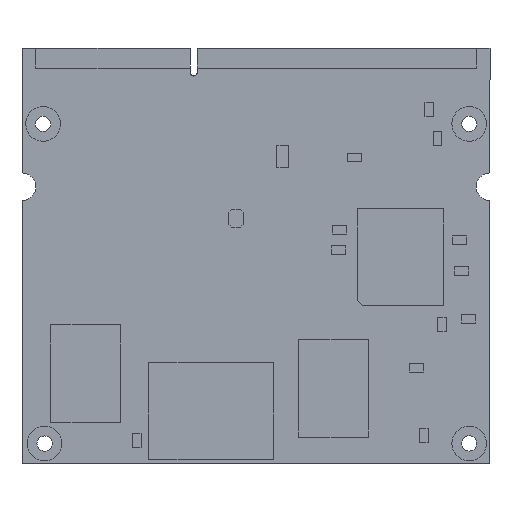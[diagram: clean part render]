
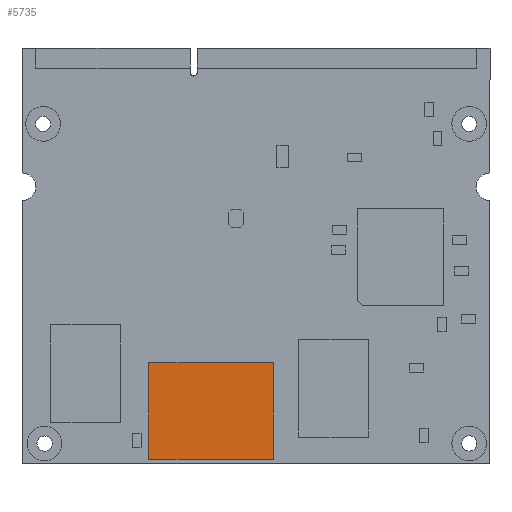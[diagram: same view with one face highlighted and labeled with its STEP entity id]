
A CAD part, front view. The second image highlights one B-rep face of the part: STEP entity #5735.
In plain terms, the highlighted planar face has unit normal (0, -1, 0).
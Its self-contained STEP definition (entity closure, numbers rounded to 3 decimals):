
#1330 = VECTOR ( 'NONE', #11431, 1000. ) ;
#1335 = VECTOR ( 'NONE', #11439, 1000. ) ;
#1336 = VECTOR ( 'NONE', #11445, 1000. ) ;
#1339 = VECTOR ( 'NONE', #11448, 1000. ) ;
#2633 = CARTESIAN_POINT ( 'NONE',  ( -15.476, -1., -29.385 ) ) ;
#2634 = CARTESIAN_POINT ( 'NONE',  ( 2.524, -1., -15.385 ) ) ;
#2635 = CARTESIAN_POINT ( 'NONE',  ( -15.476, -1., -15.385 ) ) ;
#2637 = CARTESIAN_POINT ( 'NONE',  ( 2.524, -1., -29.385 ) ) ;
#3143 = AXIS2_PLACEMENT_3D ( 'NONE', #3673, #3674, #3675 ) ;
#3648 = PLANE ( 'NONE',  #3143 ) ;
#3663 = FACE_OUTER_BOUND ( 'NONE', #13151, .T. ) ;
#3673 = CARTESIAN_POINT ( 'NONE',  ( 2.524, -1., -29.385 ) ) ;
#3674 = DIRECTION ( 'NONE',  ( 0., 1., 0. ) ) ;
#3675 = DIRECTION ( 'NONE',  ( 0., 0., 1. ) ) ;
#5224 = VERTEX_POINT ( 'NONE', #2633 ) ;
#5225 = VERTEX_POINT ( 'NONE', #2634 ) ;
#5226 = VERTEX_POINT ( 'NONE', #2635 ) ;
#5228 = VERTEX_POINT ( 'NONE', #2637 ) ;
#5735 = ADVANCED_FACE ( 'NONE', ( #3663 ), #3648, .F. ) ;
#8472 = EDGE_CURVE ( 'NONE', #5228, #5225, #11412, .T. ) ;
#8475 = EDGE_CURVE ( 'NONE', #5225, #5226, #11430, .T. ) ;
#8477 = EDGE_CURVE ( 'NONE', #5226, #5224, #11433, .T. ) ;
#8478 = EDGE_CURVE ( 'NONE', #5224, #5228, #11446, .T. ) ;
#9768 = ORIENTED_EDGE ( 'NONE', *, *, #8472, .T. ) ;
#9772 = ORIENTED_EDGE ( 'NONE', *, *, #8475, .T. ) ;
#9775 = ORIENTED_EDGE ( 'NONE', *, *, #8477, .T. ) ;
#9776 = ORIENTED_EDGE ( 'NONE', *, *, #8478, .T. ) ;
#11412 = LINE ( 'NONE', #11429, #1330 ) ;
#11429 = CARTESIAN_POINT ( 'NONE',  ( 2.524, -1., -15.385 ) ) ;
#11430 = LINE ( 'NONE', #11438, #1335 ) ;
#11431 = DIRECTION ( 'NONE',  ( 0., 0., 1. ) ) ;
#11433 = LINE ( 'NONE', #11444, #1336 ) ;
#11438 = CARTESIAN_POINT ( 'NONE',  ( -15.476, -1., -15.385 ) ) ;
#11439 = DIRECTION ( 'NONE',  ( -1., 0., 0. ) ) ;
#11444 = CARTESIAN_POINT ( 'NONE',  ( -15.476, -1., -29.385 ) ) ;
#11445 = DIRECTION ( 'NONE',  ( 0., 0., -1. ) ) ;
#11446 = LINE ( 'NONE', #11447, #1339 ) ;
#11447 = CARTESIAN_POINT ( 'NONE',  ( 2.524, -1., -29.385 ) ) ;
#11448 = DIRECTION ( 'NONE',  ( 1., 0., 0. ) ) ;
#13151 = EDGE_LOOP ( 'NONE', ( #9768, #9772, #9775, #9776 ) ) ;
